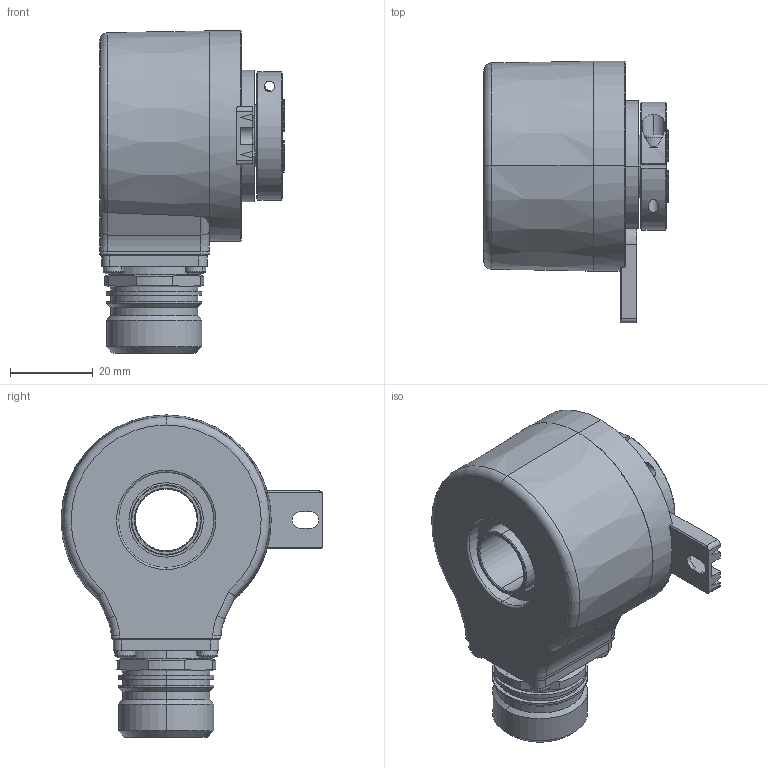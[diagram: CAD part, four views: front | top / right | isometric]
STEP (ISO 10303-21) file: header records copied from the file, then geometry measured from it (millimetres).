
FILE_DESCRIPTION (( 'STEP AP214' ), '1' );
FILE_NAME ('5020.28X4.XXXX.STEP', '2011-01-05T10:19:04', ( 'admin' ), ( 'Fritz Kübler GmbH' ), 'SwSTEP 2.0', 'SolidWorks 2009', '' );
FILE_SCHEMA (( 'AUTOMOTIVE_DESIGN' ));
Length unit declared in the file: millimetre
Products named in the file (1): 5020.28X4.XXXX
Bounding box: 44.7 x 63.3 x 77.9 mm (x, y, z)
Surface area: 21452.8 mm2 (no closed solid volume)
Topology: 0 solids, 34 shells, 394 faces, 1128 edges, 746 vertices
Faces by surface type: cylinder 149, plane 139, torus 38, cone 32, sphere 32, bspline 4
Entity records: 17603 total; most frequent: CARTESIAN_POINT 2788, DIRECTION 2398, ORIENTED_EDGE 1954, EDGE_CURVE 1104, AXIS2_PLACEMENT_3D 974, VERTEX_POINT 746, CIRCLE 583, EDGE_LOOP 454
